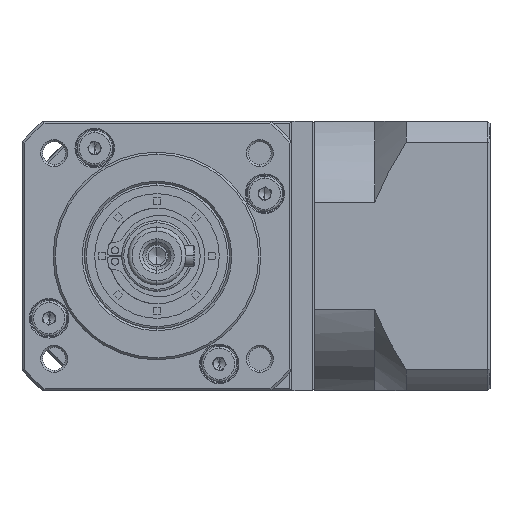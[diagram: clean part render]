
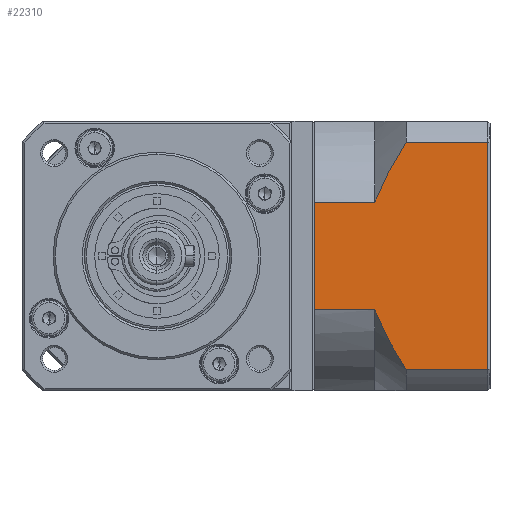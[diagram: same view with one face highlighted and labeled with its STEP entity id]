
A CAD part, left-side view. The second image highlights one B-rep face of the part: STEP entity #22310.
In plain terms, the highlighted planar face has unit normal (-1, 0, 0).
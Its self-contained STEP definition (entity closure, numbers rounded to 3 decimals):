
#4597 = VERTEX_POINT ( 'NONE', #66587 ) ;
#5398 = CARTESIAN_POINT ( 'NONE',  ( -21.287, -85.487, -101.487 ) ) ;
#5899 = B_SPLINE_CURVE_WITH_KNOTS ( 'NONE', 3,
 ( #133308, #132773, #120044, #146118, #69486, #158985, #82501, #5398 ),
 .UNSPECIFIED., .F., .F.,
 ( 4, 2, 2, 4 ),
 ( 0.058, 0.062, 0.066, 0.074 ),
 .UNSPECIFIED. ) ;
#8437 = DIRECTION ( 'NONE',  ( 0., 0., 1. ) ) ;
#9017 = CARTESIAN_POINT ( 'NONE',  ( -21.287, -85.487, -101.487 ) ) ;
#9956 = VECTOR ( 'NONE', #155672, 1000. ) ;
#11107 = ORIENTED_EDGE ( 'NONE', *, *, #33540, .T. ) ;
#12148 = CARTESIAN_POINT ( 'NONE',  ( -21.287, -87.628, -132.488 ) ) ;
#14170 = ORIENTED_EDGE ( 'NONE', *, *, #103739, .F. ) ;
#17414 = ORIENTED_EDGE ( 'NONE', *, *, #144090, .F. ) ;
#17651 = VECTOR ( 'NONE', #46620, 1000. ) ;
#22310 = ADVANCED_FACE ( 'NONE', ( #112064 ), #88479, .F. ) ;
#25012 = CARTESIAN_POINT ( 'NONE',  ( -21.287, -90.138, -137.281 ) ) ;
#25147 = EDGE_CURVE ( 'NONE', #44719, #26777, #124446, .T. ) ;
#26777 = VERTEX_POINT ( 'NONE', #90361 ) ;
#31661 = ORIENTED_EDGE ( 'NONE', *, *, #39916, .T. ) ;
#33540 = EDGE_CURVE ( 'NONE', #81137, #115067, #70918, .T. ) ;
#35212 = CARTESIAN_POINT ( 'NONE',  ( -21.287, -85.487, -87.091 ) ) ;
#37875 = CARTESIAN_POINT ( 'NONE',  ( -21.287, -92.987, -141.863 ) ) ;
#39916 = EDGE_CURVE ( 'NONE', #131210, #4597, #73056, .T. ) ;
#41435 = VECTOR ( 'NONE', #83959, 1000. ) ;
#44719 = VERTEX_POINT ( 'NONE', #91766 ) ;
#45476 = ORIENTED_EDGE ( 'NONE', *, *, #87816, .F. ) ;
#46420 = ORIENTED_EDGE ( 'NONE', *, *, #25147, .T. ) ;
#46620 = DIRECTION ( 'NONE',  ( 0., 1., 0. ) ) ;
#50372 = CARTESIAN_POINT ( 'NONE',  ( -21.287, -85.978, -128.748 ) ) ;
#52470 = EDGE_CURVE ( 'NONE', #131210, #115067, #139701, .T. ) ;
#54746 = EDGE_CURVE ( 'NONE', #95141, #135152, #5899, .T. ) ;
#56199 = VECTOR ( 'NONE', #74712, 1000. ) ;
#58251 = CARTESIAN_POINT ( 'NONE',  ( -21.287, -112.687, -141.863 ) ) ;
#64584 = CARTESIAN_POINT ( 'NONE',  ( -21.287, -92.987, -141.863 ) ) ;
#65142 = CARTESIAN_POINT ( 'NONE',  ( -21.287, -92.987, -87.091 ) ) ;
#66587 = CARTESIAN_POINT ( 'NONE',  ( -21.287, -112.687, -87.091 ) ) ;
#69486 = CARTESIAN_POINT ( 'NONE',  ( -21.287, -89.484, -92.901 ) ) ;
#70918 = B_SPLINE_CURVE_WITH_KNOTS ( 'NONE', 3,
 ( #76266, #139951, #50372, #165671, #89196, #12148, #102081, #25012, #114980, #37875 ),
 .UNSPECIFIED., .F., .F.,
 ( 4, 2, 2, 2, 4 ),
 ( 0.101, 0.103, 0.105, 0.109, 0.117 ),
 .UNSPECIFIED. ) ;
#73056 = LINE ( 'NONE', #98393, #107209 ) ;
#74712 = DIRECTION ( 'NONE',  ( 0., 0., -1. ) ) ;
#76094 = DIRECTION ( 'NONE',  ( 1., 0., 0. ) ) ;
#76266 = CARTESIAN_POINT ( 'NONE',  ( -21.287, -85.487, -127.467 ) ) ;
#81137 = VERTEX_POINT ( 'NONE', #100488 ) ;
#82439 = LINE ( 'NONE', #142790, #9956 ) ;
#82501 = CARTESIAN_POINT ( 'NONE',  ( -21.287, -86.429, -98.949 ) ) ;
#83959 = DIRECTION ( 'NONE',  ( 0., 1., 0. ) ) ;
#87816 = EDGE_CURVE ( 'NONE', #44719, #135152, #82439, .T. ) ;
#88479 = PLANE ( 'NONE',  #148268 ) ;
#89196 = CARTESIAN_POINT ( 'NONE',  ( -21.287, -86.778, -130.634 ) ) ;
#90318 = EDGE_LOOP ( 'NONE', ( #136233, #31661, #17414, #157093, #45476, #46420, #14170, #11107 ) ) ;
#90361 = CARTESIAN_POINT ( 'NONE',  ( -21.287, -70.987, -127.467 ) ) ;
#91766 = CARTESIAN_POINT ( 'NONE',  ( -21.287, -70.987, -101.487 ) ) ;
#92041 = VECTOR ( 'NONE', #99939, 1000. ) ;
#95141 = VERTEX_POINT ( 'NONE', #65142 ) ;
#98393 = CARTESIAN_POINT ( 'NONE',  ( -21.287, -112.687, -146.977 ) ) ;
#99939 = DIRECTION ( 'NONE',  ( 0., -1., 0. ) ) ;
#100488 = CARTESIAN_POINT ( 'NONE',  ( -21.287, -85.487, -127.467 ) ) ;
#100551 = CARTESIAN_POINT ( 'NONE',  ( -21.287, -70.987, -146.977 ) ) ;
#102081 = CARTESIAN_POINT ( 'NONE',  ( -21.287, -88.233, -133.7 ) ) ;
#103739 = EDGE_CURVE ( 'NONE', #81137, #26777, #116164, .T. ) ;
#107209 = VECTOR ( 'NONE', #8437, 1000. ) ;
#112064 = FACE_OUTER_BOUND ( 'NONE', #90318, .T. ) ;
#114980 = CARTESIAN_POINT ( 'NONE',  ( -21.287, -91.526, -139.595 ) ) ;
#115067 = VERTEX_POINT ( 'NONE', #64584 ) ;
#116164 = LINE ( 'NONE', #123533, #17651 ) ;
#120044 = CARTESIAN_POINT ( 'NONE',  ( -21.287, -91.539, -89.38 ) ) ;
#123533 = CARTESIAN_POINT ( 'NONE',  ( -21.287, -85.487, -127.467 ) ) ;
#124446 = LINE ( 'NONE', #100551, #56199 ) ;
#129985 = LINE ( 'NONE', #35212, #92041 ) ;
#131210 = VERTEX_POINT ( 'NONE', #58251 ) ;
#132773 = CARTESIAN_POINT ( 'NONE',  ( -21.287, -92.254, -88.229 ) ) ;
#133308 = CARTESIAN_POINT ( 'NONE',  ( -21.287, -92.987, -87.091 ) ) ;
#135152 = VERTEX_POINT ( 'NONE', #9017 ) ;
#136233 = ORIENTED_EDGE ( 'NONE', *, *, #52470, .F. ) ;
#139701 = LINE ( 'NONE', #160446, #41435 ) ;
#139951 = CARTESIAN_POINT ( 'NONE',  ( -21.287, -85.726, -128.109 ) ) ;
#142790 = CARTESIAN_POINT ( 'NONE',  ( -21.287, -85.487, -101.487 ) ) ;
#144090 = EDGE_CURVE ( 'NONE', #95141, #4597, #129985, .T. ) ;
#146118 = CARTESIAN_POINT ( 'NONE',  ( -21.287, -90.154, -91.715 ) ) ;
#148268 = AXIS2_PLACEMENT_3D ( 'NONE', #152657, #76094, #165499 ) ;
#152657 = CARTESIAN_POINT ( 'NONE',  ( -21.287, -113.187, -146.977 ) ) ;
#155672 = DIRECTION ( 'NONE',  ( 0., -1., 0. ) ) ;
#157093 = ORIENTED_EDGE ( 'NONE', *, *, #54746, .T. ) ;
#158985 = CARTESIAN_POINT ( 'NONE',  ( -21.287, -87.574, -96.497 ) ) ;
#160446 = CARTESIAN_POINT ( 'NONE',  ( -21.287, -85.487, -141.863 ) ) ;
#165499 = DIRECTION ( 'NONE',  ( 0., 1., 0. ) ) ;
#165671 = CARTESIAN_POINT ( 'NONE',  ( -21.287, -86.504, -130.01 ) ) ;
